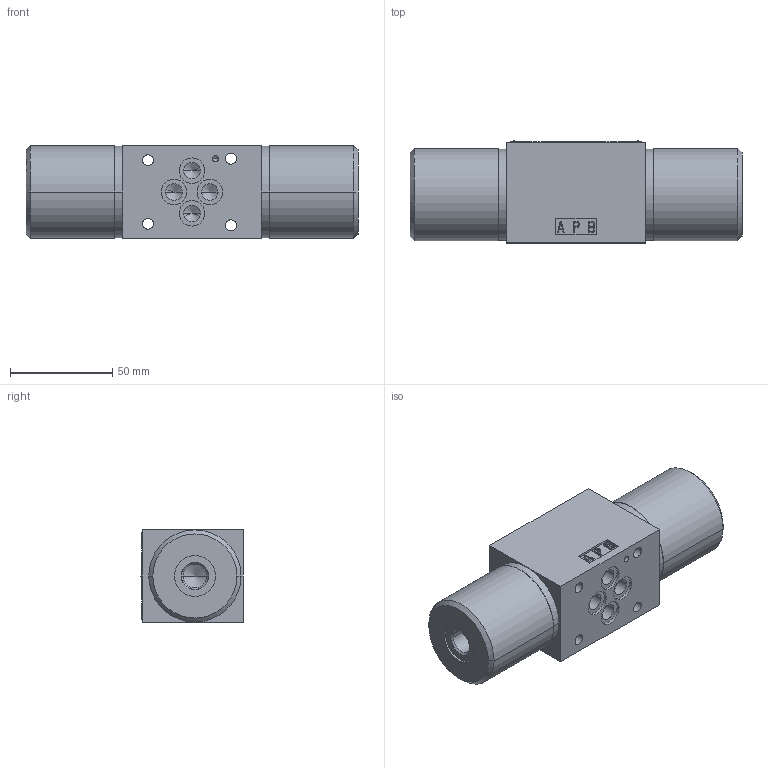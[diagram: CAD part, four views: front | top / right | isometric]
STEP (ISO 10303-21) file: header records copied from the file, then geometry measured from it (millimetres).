
FILE_DESCRIPTION((''),'2;1');
FILE_NAME('RPH3_063Y11_156936','2022-11-28T',('l.soukupova'),(''),'PRO/ENGINEER BY PARAMETRIC TECHNOLOGY CORPORATION, 2015440','PRO/ENGINEER BY PARAMETRIC TECHNOLOGY CORPORATION, 2015440','');
FILE_SCHEMA(('AUTOMOTIVE_DESIGN { 1 0 10303 214 1 1 1 1 }'));
Length unit declared in the file: millimetre
Products named in the file (1): RPH3_063Y11_156936
Bounding box: 162 x 49.85 x 45 mm (x, y, z)
Volume: 285360.8 mm3; surface area: 37886 mm2
Topology: 1 solids, 3 shells, 227 faces, 603 edges, 425 vertices
Faces by surface type: plane 135, cylinder 66, cone 22, sphere 4
Entity records: 9498 total; most frequent: DIRECTION 1199, CARTESIAN_POINT 1189, ORIENTED_EDGE 1108, PRESENTATION_STYLE_ASSIGNMENT 655, STYLED_ITEM 592, CURVE_STYLE 589, EDGE_CURVE 558, VECTOR 433
